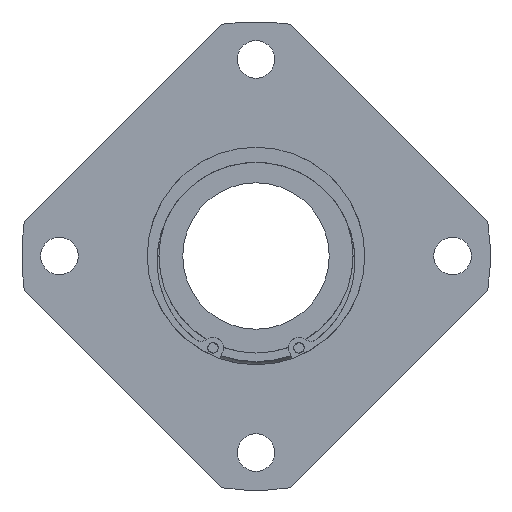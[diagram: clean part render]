
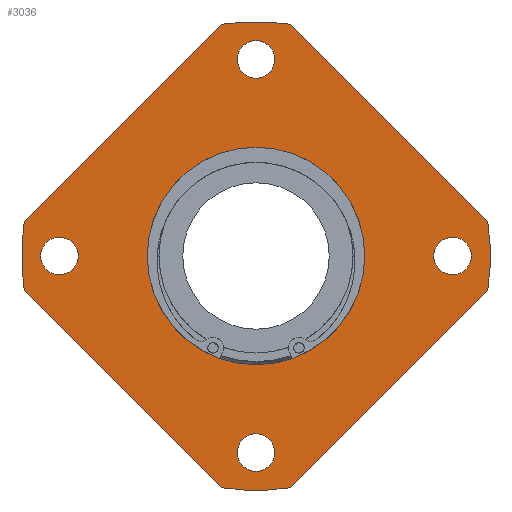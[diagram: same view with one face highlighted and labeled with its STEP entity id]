
A CAD part, left-side view. The second image highlights one B-rep face of the part: STEP entity #3036.
In plain terms, the highlighted planar face has unit normal (-1, 0, 0).
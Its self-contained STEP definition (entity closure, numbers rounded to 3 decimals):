
#2659=CARTESIAN_POINT('',(0.0,0.0,26.));
#2660=VERTEX_POINT('',#2659);
#2661=CARTESIAN_POINT('',(0.0,0.0,0.0));
#2662=DIRECTION('',(-1.0,0.0,0.0));
#2663=DIRECTION('',(0.0,0.0,1.0));
#2664=AXIS2_PLACEMENT_3D('',#2661,#2662,#2663);
#2665=CIRCLE('',#2664,26.);
#2666=EDGE_CURVE('',#2660,#2660,#2665,.T.);
#2751=CARTESIAN_POINT('',(0.0,-55.389,-8.251));
#2752=VERTEX_POINT('',#2751);
#2759=CARTESIAN_POINT('',(0.0,-8.251,-55.389));
#2760=VERTEX_POINT('',#2759);
#2761=CARTESIAN_POINT('',(0.0,-8.251,-55.389));
#2762=DIRECTION('',(0.0,-0.707,0.707));
#2763=VECTOR('',#2762,66.663);
#2764=LINE('',#2761,#2763);
#2765=EDGE_CURVE('',#2760,#2752,#2764,.T.);
#2791=CARTESIAN_POINT('',(0.0,55.389,8.251));
#2792=VERTEX_POINT('',#2791);
#2799=CARTESIAN_POINT('',(0.0,8.251,55.389));
#2800=VERTEX_POINT('',#2799);
#2801=CARTESIAN_POINT('',(0.0,8.251,55.389));
#2802=DIRECTION('',(0.0,0.707,-0.707));
#2803=VECTOR('',#2802,66.663);
#2804=LINE('',#2801,#2803);
#2805=EDGE_CURVE('',#2800,#2792,#2804,.T.);
#2831=CARTESIAN_POINT('',(0.0,8.251,-55.389));
#2832=VERTEX_POINT('',#2831);
#2839=CARTESIAN_POINT('',(0.0,55.389,-8.251));
#2840=VERTEX_POINT('',#2839);
#2841=CARTESIAN_POINT('',(0.0,55.389,-8.251));
#2842=DIRECTION('',(0.0,-0.707,-0.707));
#2843=VECTOR('',#2842,66.663);
#2844=LINE('',#2841,#2843);
#2845=EDGE_CURVE('',#2840,#2832,#2844,.T.);
#2871=CARTESIAN_POINT('',(0.0,-8.251,55.389));
#2872=VERTEX_POINT('',#2871);
#2879=CARTESIAN_POINT('',(0.0,-55.389,8.251));
#2880=VERTEX_POINT('',#2879);
#2881=CARTESIAN_POINT('',(0.0,-55.389,8.251));
#2882=DIRECTION('',(0.0,0.707,0.707));
#2883=VECTOR('',#2882,66.663);
#2884=LINE('',#2881,#2883);
#2885=EDGE_CURVE('',#2880,#2872,#2884,.T.);
#2910=CARTESIAN_POINT('',(0.0,0.0,0.0));
#2911=DIRECTION('',(-1.0,0.0,0.0));
#2912=DIRECTION('',(0.0,0.0,1.0));
#2913=AXIS2_PLACEMENT_3D('',#2910,#2911,#2912);
#2914=CIRCLE('',#2913,56.);
#2915=EDGE_CURVE('',#2752,#2880,#2914,.T.);
#2934=CARTESIAN_POINT('',(0.0,0.0,0.0));
#2935=DIRECTION('',(-1.0,0.0,0.0));
#2936=DIRECTION('',(0.0,0.0,1.0));
#2937=AXIS2_PLACEMENT_3D('',#2934,#2935,#2936);
#2938=CIRCLE('',#2937,56.);
#2939=EDGE_CURVE('',#2792,#2840,#2938,.T.);
#2950=CARTESIAN_POINT('',(0.0,0.0,0.0));
#2951=DIRECTION('',(-1.0,0.0,0.0));
#2952=DIRECTION('',(0.0,0.0,1.0));
#2953=AXIS2_PLACEMENT_3D('',#2950,#2951,#2952);
#2954=CIRCLE('',#2953,56.);
#2955=EDGE_CURVE('',#2872,#2800,#2954,.T.);
#2968=CARTESIAN_POINT('',(0.0,0.0,41.));
#2969=DIRECTION('',(-1.0,0.0,0.0));
#2970=DIRECTION('',(0.0,0.0,1.0));
#2971=AXIS2_PLACEMENT_3D('',#2968,#2969,#2970);
#2972=PLANE('',#2971);
#2973=ORIENTED_EDGE('',*,*,#2765,.T.);
#2974=ORIENTED_EDGE('',*,*,#2915,.T.);
#2975=ORIENTED_EDGE('',*,*,#2885,.T.);
#2976=ORIENTED_EDGE('',*,*,#2955,.T.);
#2977=ORIENTED_EDGE('',*,*,#2805,.T.);
#2978=ORIENTED_EDGE('',*,*,#2939,.T.);
#2979=ORIENTED_EDGE('',*,*,#2845,.T.);
#2980=CARTESIAN_POINT('',(0.0,0.0,0.0));
#2981=DIRECTION('',(-1.0,0.0,0.0));
#2982=DIRECTION('',(0.0,0.0,1.0));
#2983=AXIS2_PLACEMENT_3D('',#2980,#2981,#2982);
#2984=CIRCLE('',#2983,56.);
#2985=EDGE_CURVE('',#2832,#2760,#2984,.T.);
#2986=ORIENTED_EDGE('',*,*,#2985,.T.);
#2987=EDGE_LOOP('',(#2973,#2974,#2975,#2976,#2977,#2978,#2979,#2986));
#2988=FACE_OUTER_BOUND('',#2987,.T.);
#2989=ORIENTED_EDGE('',*,*,#2666,.F.);
#2990=EDGE_LOOP('',(#2989));
#2991=FACE_BOUND('',#2990,.T.);
#2992=CARTESIAN_POINT('',(0.0,4.5,47.0));
#2993=VERTEX_POINT('',#2992);
#2994=CARTESIAN_POINT('',(0.0,0.,47.0));
#2995=DIRECTION('',(1.0,0.0,0.0));
#2996=DIRECTION('',(0.0,1.0,0.0));
#2997=AXIS2_PLACEMENT_3D('',#2994,#2995,#2996);
#2998=CIRCLE('',#2997,4.5);
#2999=EDGE_CURVE('',#2993,#2993,#2998,.T.);
#3000=ORIENTED_EDGE('',*,*,#2999,.T.);
#3001=EDGE_LOOP('',(#3000));
#3002=FACE_BOUND('',#3001,.T.);
#3003=CARTESIAN_POINT('',(0.0,-47.0,4.5));
#3004=VERTEX_POINT('',#3003);
#3005=CARTESIAN_POINT('',(0.0,-47.0,0.));
#3006=DIRECTION('',(1.0,0.0,0.0));
#3007=DIRECTION('',(0.0,0.0,1.0));
#3008=AXIS2_PLACEMENT_3D('',#3005,#3006,#3007);
#3009=CIRCLE('',#3008,4.5);
#3010=EDGE_CURVE('',#3004,#3004,#3009,.T.);
#3011=ORIENTED_EDGE('',*,*,#3010,.T.);
#3012=EDGE_LOOP('',(#3011));
#3013=FACE_BOUND('',#3012,.T.);
#3014=CARTESIAN_POINT('',(0.0,-4.5,-47.0));
#3015=VERTEX_POINT('',#3014);
#3016=CARTESIAN_POINT('',(0.0,0.,-47.0));
#3017=DIRECTION('',(1.0,0.0,0.0));
#3018=DIRECTION('',(0.0,-1.0,0.0));
#3019=AXIS2_PLACEMENT_3D('',#3016,#3017,#3018);
#3020=CIRCLE('',#3019,4.5);
#3021=EDGE_CURVE('',#3015,#3015,#3020,.T.);
#3022=ORIENTED_EDGE('',*,*,#3021,.T.);
#3023=EDGE_LOOP('',(#3022));
#3024=FACE_BOUND('',#3023,.T.);
#3025=CARTESIAN_POINT('',(0.0,47.0,-4.5));
#3026=VERTEX_POINT('',#3025);
#3027=CARTESIAN_POINT('',(0.0,47.0,0.));
#3028=DIRECTION('',(1.0,0.0,0.0));
#3029=DIRECTION('',(0.0,0.0,-1.0));
#3030=AXIS2_PLACEMENT_3D('',#3027,#3028,#3029);
#3031=CIRCLE('',#3030,4.5);
#3032=EDGE_CURVE('',#3026,#3026,#3031,.T.);
#3033=ORIENTED_EDGE('',*,*,#3032,.T.);
#3034=EDGE_LOOP('',(#3033));
#3035=FACE_BOUND('',#3034,.T.);
#3036=ADVANCED_FACE('',(#2988,#2991,#3002,#3013,#3024,#3035),#2972,.T.);
